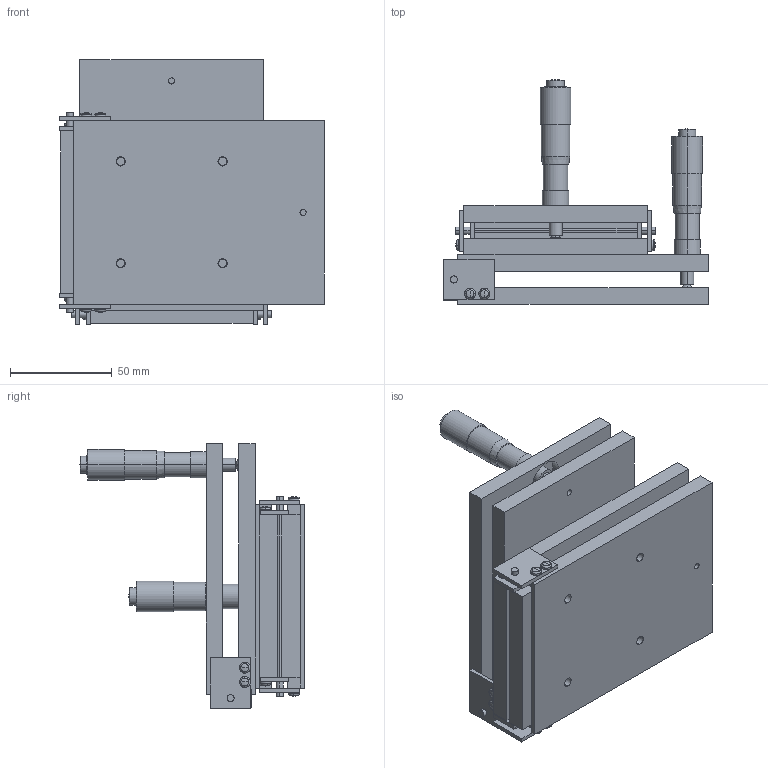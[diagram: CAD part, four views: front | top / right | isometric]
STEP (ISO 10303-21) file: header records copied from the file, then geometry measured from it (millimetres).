
FILE_DESCRIPTION (( 'STEP AP203' ), '1' );
FILE_NAME ('TD-201.STEP', '2008-04-07T02:51:05', ( '' ), ( '' ), 'SwSTEP 2.0', 'SolidWorks 2007', '' );
FILE_SCHEMA (( 'CONFIG_CONTROL_DESIGN' ));
Length unit declared in the file: millimetre
Products named in the file (6): TD-201; TD-201-1_蹬怮椔; TD-201-2_蹬怮椔; TD-201-5_蹬怮椔; TD-201-3_蹬怮椔; TD-201-4_蹬怮椔
Assembly tree (5 placements, depth 2):
  TD-201
    TD-201-1_蹬怮椔
    TD-201-5_蹬怮椔
    TD-201-4_蹬怮椔
    TD-201-2_蹬怮椔
    TD-201-3_蹬怮椔
Bounding box: 130 x 110.07 x 130 mm (x, y, z)
Volume: 390599.3 mm3; surface area: 116089.6 mm2
Topology: 5 solids, 21 shells, 493 faces, 1136 edges, 732 vertices
Faces by surface type: plane 217, cylinder 188, cone 32, torus 28, sphere 28
Entity records: 14802 total; most frequent: DIRECTION 2690, CARTESIAN_POINT 2365, ORIENTED_EDGE 2264, EDGE_CURVE 1132, AXIS2_PLACEMENT_3D 1057, VERTEX_POINT 732, EDGE_LOOP 606, LINE 576
